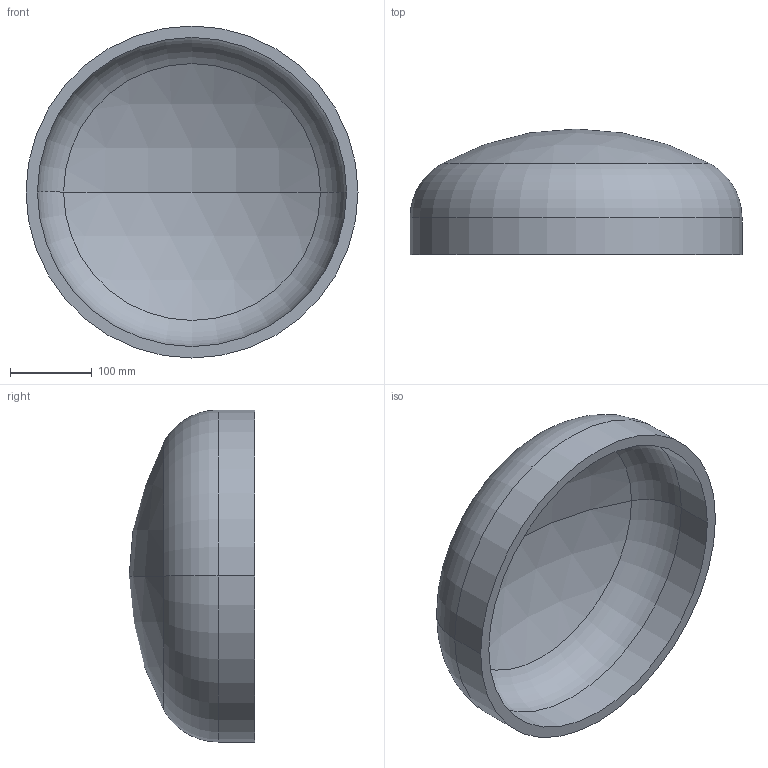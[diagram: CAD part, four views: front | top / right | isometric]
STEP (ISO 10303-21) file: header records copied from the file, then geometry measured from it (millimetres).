
FILE_DESCRIPTION (( 'STEP AP203' ), '1' );
FILE_NAME ('DIN 28013 Korbbogenform_-_Boden DIN 28013 - 406,4 x 45 - I - s=14.step', '2016-07-01T07:49:10', ( '' ), ( '' ), 'SwSTEP 2.0', 'SolidWorks 2013', '' );
FILE_SCHEMA (( 'CONFIG_CONTROL_DESIGN' ));
Length unit declared in the file: millimetre
Products named in the file (1): DIN 28013 Korbbogenform_-_Boden DIN 28013 - 406,4 x 45 - I - s=14
Bounding box: 406.4 x 153.81 x 406.4 mm (x, y, z)
Volume: 3177060.2 mm3; surface area: 471534.8 mm2
Topology: 1 solids, 1 shells, 13 faces, 24 edges, 14 vertices
Faces by surface type: torus 4, cylinder 4, sphere 4, plane 1
Entity records: 407 total; most frequent: DIRECTION 72, CARTESIAN_POINT 52, ORIENTED_EDGE 48, AXIS2_PLACEMENT_3D 34, EDGE_CURVE 24, CIRCLE 20, VERTEX_POINT 14, EDGE_LOOP 14
